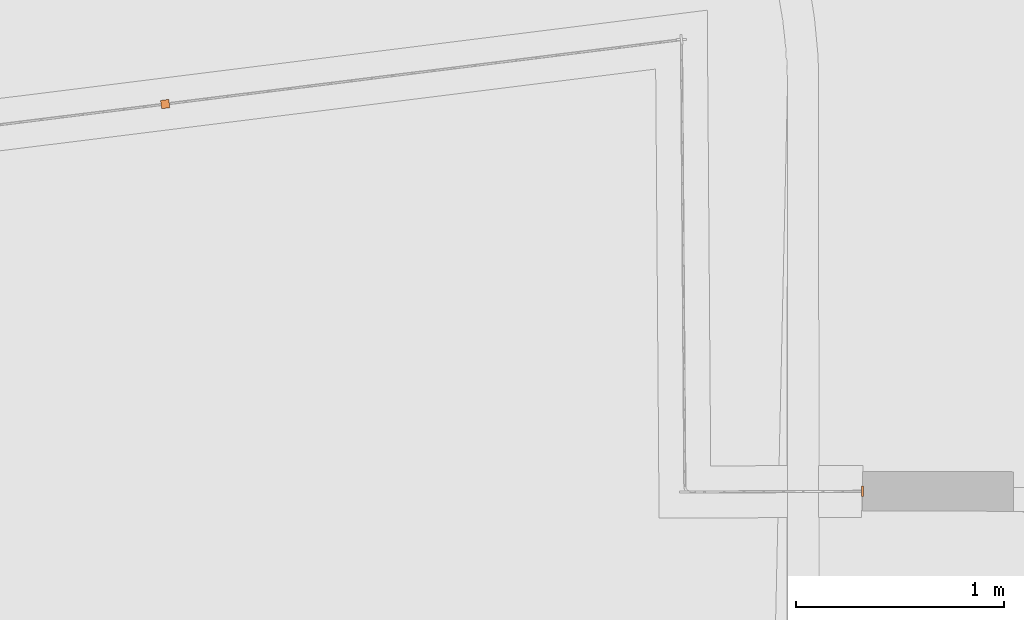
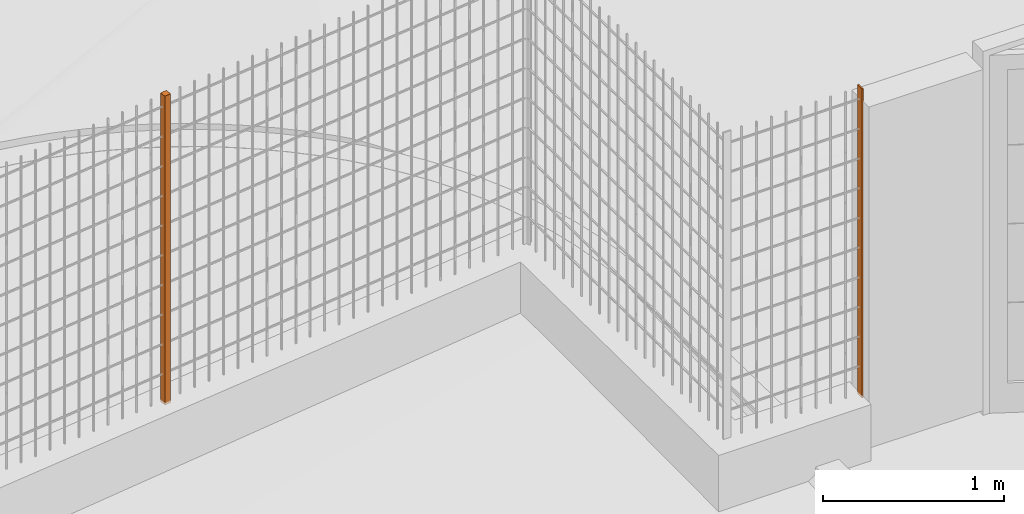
# One storey, part 46 of 1809: 2 proxies, 2 elements without a shape of their own.
"""IFC2X3 building model written with IfcOpenShell, lengths in millimetres."""

import ifcopenshell
import ifcopenshell.guid

model = None  # the IFC model being written
_history = None  # IfcOwnerHistory: only IFC2X3 demands one
_inside = {}  # id of a spatial element -> (the spatial element, [elements in it])
_under = {}  # id of a project, library or spatial element -> (it, [spatial elements below it])
_declared = {}  # id of a project -> (the project, [libraries it declares])
_typed = {}  # id of a type object -> (the type object, [elements of that type])
_made_of = {}  # id of a material, layer set ... -> (it, [elements and type objects made of it])


def new_model(schema):
    """Start an empty IFC model of exactly this schema.

    Asked for "IFC4X3", IfcOpenShell would pick the latest addendum, in which some entities
    have other attributes; the version numbers below select the first issue.
    IFC2X3 requires an IfcOwnerHistory on every rooted entity: one is made here for all.
    """
    global model, _history
    if schema == "IFC4X3":
        model = ifcopenshell.file(schema_version=(4, 3, 0, 0))
    else:
        model = ifcopenshell.file(schema=schema)
    _inside.clear()
    _under.clear()
    _declared.clear()
    _typed.clear()
    _made_of.clear()
    _history = None
    if model.schema == "IFC2X3":
        org = make("IfcOrganization", Name="unknown")
        user = make(
            "IfcPersonAndOrganization",
            ThePerson=make("IfcPerson", FamilyName="unknown"),
            TheOrganization=org,
        )
        app = make(
            "IfcApplication",
            ApplicationDeveloper=org,
            Version="unknown",
            ApplicationFullName="unknown",
            ApplicationIdentifier="unknown",
        )
        _history = make(
            "IfcOwnerHistory",
            OwningUser=user,
            OwningApplication=app,
            ChangeAction="ADDED",
            CreationDate=0,
        )
    return model


def make(cls, **values):
    """One entity of the class cls with the attributes given. An attribute that is None is left unset."""
    return model.create_entity(
        cls, **{name: value for name, value in values.items() if value is not None}
    )


def entity(cls, *values):
    """Any entity or typed value of the class cls, its attributes in the order of the schema. None: left unset."""
    e = model.create_entity(cls)
    for i, value in enumerate(values):
        if value is not None:
            e[i] = value
    return e


def rooted(cls, **values):
    """An entity with a GlobalId (a new one), such as an element, a storey or a relation."""
    return make(cls, GlobalId=ifcopenshell.guid.new(), OwnerHistory=_history, **values)


def si_unit(unit_type, name, prefix=None):
    """IfcSIUnit, for example si_unit("LENGTHUNIT", "METRE", prefix="MILLI")."""
    return make("IfcSIUnit", UnitType=unit_type, Prefix=prefix, Name=name)


def converted_unit(unit_type, name, factor, base, dimensions=None, offset=None):
    """IfcConversionBasedUnit, such as the inch: factor (a typed value) times the base unit."""
    return make(
        "IfcConversionBasedUnit"
        if offset is None
        else "IfcConversionBasedUnitWithOffset",
        ConversionOffset=offset,
        Dimensions=None
        if dimensions is None
        else entity("IfcDimensionalExponents", *dimensions),
        UnitType=unit_type,
        Name=name,
        ConversionFactor=make(
            "IfcMeasureWithUnit", ValueComponent=factor, UnitComponent=base
        ),
    )


def derived_unit(unit_type, elements):
    """IfcDerivedUnit: a product of units, each with its exponent."""
    return make(
        "IfcDerivedUnit",
        Elements=[
            make("IfcDerivedUnitElement", Unit=unit, Exponent=power)
            for unit, power in elements
        ],
        UnitType=unit_type,
    )


def money_unit(currency):
    """IfcMonetaryUnit."""
    return make("IfcMonetaryUnit", Currency=currency)


def assignment(units):
    """IfcUnitAssignment: the units of a project."""
    return None if units is None else make("IfcUnitAssignment", Units=units)


def point(xyz):
    """IfcCartesianPoint."""
    return None if xyz is None else make("IfcCartesianPoint", Coordinates=xyz)


def direction(xyz):
    """IfcDirection."""
    return None if xyz is None else make("IfcDirection", DirectionRatios=xyz)


def frame(location, z_axis=None, x_axis=None):
    """IfcAxis2Placement3D, a coordinate frame: its origin and axes. An axis left out is left unset."""
    return make(
        "IfcAxis2Placement3D",
        Location=point(location),
        Axis=direction(z_axis),
        RefDirection=direction(x_axis),
    )


def origin_with_axes():
    """The frame at (0, 0, 0) with the z axis (0, 0, 1) and the x axis (1, 0, 0) written out."""
    return frame((0.0, 0.0, 0.0), z_axis=(0.0, 0.0, 1.0), x_axis=(1.0, 0.0, 0.0))


def place(relative_to, where):
    """IfcLocalPlacement: puts the frame where relative to a parent placement (None: the world)."""
    return make(
        "IfcLocalPlacement", PlacementRelTo=relative_to, RelativePlacement=where
    )


def context(
    kind, dimensions, precision=None, world=None, true_north=None, identifier=None
):
    """IfcGeometricRepresentationContext, for example the 3D "Model" context."""
    return make(
        "IfcGeometricRepresentationContext",
        ContextIdentifier=identifier,
        ContextType=kind,
        CoordinateSpaceDimension=dimensions,
        Precision=precision,
        WorldCoordinateSystem=world,
        TrueNorth=true_north,
    )


def subcontext(parent, identifier, kind, view, scale=None):
    """IfcGeometricRepresentationSubContext, for example "Body" below "Model"."""
    return make(
        "IfcGeometricRepresentationSubContext",
        ContextIdentifier=identifier,
        ContextType=kind,
        ParentContext=parent,
        TargetScale=scale,
        TargetView=view,
    )


def project(units=None, contexts=None):
    """IfcProject with its units and contexts."""
    return rooted(
        "IfcProject",
        Name="project",
        RepresentationContexts=contexts,
        UnitsInContext=assignment(units),
    )


def spatial(cls, under=None, at=None, **own):
    """A site, building, storey or space (cls), placed at a placement, below another one or the project."""
    s = rooted(cls, ObjectPlacement=at, **own)
    if under is not None:
        _under.setdefault(under.id(), (under, []))[1].append(s)
    return s


def faces_of(points, faces, orient=None, outer=None):
    """IfcFace entities. A face is a list of loops; a loop is a list of indices into points, from 0.

    orient and outer hold one flag for each loop. By default every Orientation is true, the
    first loop of a face is its IfcFaceOuterBound and the others are IfcFaceBound.
    """
    made = []
    for i, loops in enumerate(faces):
        bounds = []
        for j, loop in enumerate(loops):
            is_outer = j == 0 if outer is None else outer[i][j]
            bounds.append(
                make(
                    "IfcFaceOuterBound" if is_outer else "IfcFaceBound",
                    Bound=make("IfcPolyLoop", Polygon=[points[k] for k in loop]),
                    Orientation=True if orient is None else orient[i][j],
                )
            )
        made.append(make("IfcFace", Bounds=bounds))
    return made


def faceted_brep(points, faces, orient=None, outer=None, voids=None):
    """IfcFacetedBrep: a solid bounded by flat faces; with voids (closed shells), ...WithVoids."""
    shared = [point(p) for p in points]
    hull = make("IfcClosedShell", CfsFaces=faces_of(shared, faces, orient, outer))
    if voids is None:
        return make("IfcFacetedBrep", Outer=hull)
    return make(
        "IfcFacetedBrepWithVoids",
        Outer=hull,
        Voids=[
            make(cls, CfsFaces=faces_of(shared, fs, o, b)) for cls, fs, o, b in voids
        ],
    )


def shape(context_of_items, identifier, shape_type, items):
    """IfcShapeRepresentation: the items that make up one representation, for example the "Body"."""
    return make(
        "IfcShapeRepresentation",
        ContextOfItems=context_of_items,
        RepresentationIdentifier=identifier,
        RepresentationType=shape_type,
        Items=items,
    )


def source(mapping_origin, context_of_items, identifier, shape_type, items):
    """IfcRepresentationMap: a shape defined once, which mapped items show again and again."""
    return make(
        "IfcRepresentationMap",
        MappingOrigin=mapping_origin,
        MappedRepresentation=shape(context_of_items, identifier, shape_type, items),
    )


def transform(
    local_origin,
    x_axis=None,
    y_axis=None,
    z_axis=None,
    scale=None,
    scale2=None,
    scale3=None,
    uniform=True,
):
    """IfcCartesianTransformationOperator3D, or its non-uniform kind. x_axis, y_axis, z_axis: its Axis1, 2, 3."""
    if uniform:
        return make(
            "IfcCartesianTransformationOperator3D",
            Axis1=direction(x_axis),
            Axis2=direction(y_axis),
            LocalOrigin=point(local_origin),
            Scale=scale,
            Axis3=direction(z_axis),
        )
    return make(
        "IfcCartesianTransformationOperator3DnonUniform",
        Axis1=direction(x_axis),
        Axis2=direction(y_axis),
        LocalOrigin=point(local_origin),
        Scale=scale,
        Axis3=direction(z_axis),
        Scale2=scale2,
        Scale3=scale3,
    )


def mapped(mapping_source, mapping_target):
    """IfcMappedItem: shows the shape of a source again, moved by a transform."""
    return make(
        "IfcMappedItem", MappingSource=mapping_source, MappingTarget=mapping_target
    )


def material(Name=None, Category=None):
    """IfcMaterial."""
    return make("IfcMaterial", Name=Name, Category=Category)


def made_of(thing, what):
    """Note that an element or type object is made of a material, layer set ...; save() writes the relation."""
    if what is not None:
        _made_of.setdefault(what.id(), (what, []))[1].append(thing)
    return thing


def type_object(cls, material=None, **own):
    """A type object (cls), such as IfcWallType, which elements share."""
    return made_of(rooted(cls, **own), material)


def element(
    cls,
    number,
    at=None,
    inside=None,
    cuts=None,
    type_object=None,
    material=None,
    context=None,
    identifier="Body",
    shape_type=None,
    held_by="IfcProductDefinitionShape",
    body=None,
    shapes=None,
    **own,
):
    """One element of the class cls, such as IfcWall. Its Tag is "e" and its number.

    at: its placement. inside: the storey or other place that contains it. cuts: it is an
    opening in that element (IfcRelVoidsElement). A single representation is given by context,
    identifier, shape_type and body (its items); several are given by shapes. held_by: the class
    of the entity that holds the representations. save() writes the other relations.
    """
    e = rooted(cls, Tag="e%d" % number, ObjectPlacement=at, **own)
    if body is not None:
        shapes = [shape(context, identifier, shape_type, body)]
    if shapes is not None:
        e.Representation = make(held_by, Representations=shapes)
    if inside is not None:
        _inside.setdefault(inside.id(), (inside, []))[1].append(e)
    if cuts is not None:
        rooted(
            "IfcRelVoidsElement", RelatingBuildingElement=cuts, RelatedOpeningElement=e
        )
    if type_object is not None:
        _typed.setdefault(type_object.id(), (type_object, []))[1].append(e)
    return made_of(e, material)


def aggregate(whole, parts):
    """IfcRelAggregates: a whole, such as a stair, and the parts it consists of."""
    return rooted("IfcRelAggregates", RelatingObject=whole, RelatedObjects=parts)


def save(model, path):
    """Write the relations noted so far, then the file.

    IfcRelAggregates (storeys below a building ...), IfcRelContainedInSpatialStructure (elements
    in a storey), IfcRelDefinesByType, IfcRelAssociatesMaterial and IfcRelDeclares: one each for
    every whole, place, type object, material and project.
    """
    for whole, parts in _under.values():
        aggregate(whole, parts)
    for where, things in _inside.values():
        rooted(
            "IfcRelContainedInSpatialStructure",
            RelatedElements=things,
            RelatingStructure=where,
        )
    for kind, things in _typed.values():
        rooted("IfcRelDefinesByType", RelatedObjects=things, RelatingType=kind)
    for what, things in _made_of.values():
        rooted("IfcRelAssociatesMaterial", RelatedObjects=things, RelatingMaterial=what)
    for by, libraries in _declared.values():
        rooted("IfcRelDeclares", RelatingContext=by, RelatedDefinitions=libraries)
    model.write(path)


model = new_model("IFC2X3")

# Units and contexts
model_context = context("Model", 3, precision=0.01, world=origin_with_axes(), true_north=direction((0.0, 1.0)))
body_context = subcontext(model_context, "Body", "Model", "MODEL_VIEW")
ifc_project = project(units=[si_unit("LENGTHUNIT", "METRE", prefix="MILLI"), si_unit("AREAUNIT", "SQUARE_METRE"), si_unit("VOLUMEUNIT", "CUBIC_METRE"), converted_unit("PLANEANGLEUNIT", "DEGREE", entity("IfcPlaneAngleMeasure", 0.0174532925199), si_unit("PLANEANGLEUNIT", "RADIAN"), dimensions=[0, 0, 0, 0, 0, 0, 0]), si_unit("SOLIDANGLEUNIT", "STERADIAN"), money_unit("EUR"), converted_unit("TIMEUNIT", "Year", entity("IfcTimeMeasure", 31556926.0), si_unit("TIMEUNIT", "SECOND"), dimensions=[0, 0, 1, 0, 0, 0, 0]), si_unit("MASSUNIT", "GRAM", prefix="KILO"), si_unit("THERMODYNAMICTEMPERATUREUNIT", "DEGREE_CELSIUS"), si_unit("LUMINOUSINTENSITYUNIT", "LUMEN"), si_unit("ENERGYUNIT", "JOULE", prefix="MEGA"), derived_unit("THERMALCONDUCTANCEUNIT", [(si_unit("POWERUNIT", "WATT"), 1), (si_unit("LENGTHUNIT", "METRE"), -1), (si_unit("THERMODYNAMICTEMPERATUREUNIT", "KELVIN"), -1)]), derived_unit("SPECIFICHEATCAPACITYUNIT", [(si_unit("ENERGYUNIT", "JOULE"), 1), (si_unit("MASSUNIT", "GRAM", prefix="KILO"), -1), (si_unit("THERMODYNAMICTEMPERATUREUNIT", "KELVIN"), -1)]), derived_unit("MASSDENSITYUNIT", [(si_unit("MASSUNIT", "GRAM", prefix="KILO"), 1), (si_unit("VOLUMEUNIT", "CUBIC_METRE"), -1)])], contexts=[model_context])

# Site, building, storey
site_placement = place(None, origin_with_axes())
site = spatial("IfcSite", under=ifc_project, at=site_placement, Name="Politse- ja Piirivalveameti ning Päästeameti ühishoone", CompositionType="ELEMENT")
building_placement = place(site_placement, origin_with_axes())
building = spatial("IfcBuilding", under=site, at=building_placement, Name="Politse- ja Piirivalveameti ning Päästeameti ühishoone", CompositionType="ELEMENT")
storey_placement = place(building_placement, origin_with_axes())
storey = spatial("IfcBuildingStorey", under=building, at=storey_placement, Name="Esimene korrus", CompositionType="ELEMENT", Elevation=0.0)

# Proxies
building_element_proxy_type_1 = type_object("IfcBuildingElementProxyType", Name="Railing Type", PredefinedType="NOTDEFINED")
proxy_1_placement = place(storey_placement, frame((50435.1929267, 70920.5645393, 296.762367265), z_axis=(0.0, 0.0, 1.0), x_axis=(1.0, 0.0, 0.0)))
proxy_1 = element("IfcBuildingElementProxy", 1, at=proxy_1_placement, inside=storey, type_object=building_element_proxy_type_1, Name="PIIRDEAED")
ifc_material_1 = material(Name="Teras - Konstruktsioon")
building_element_proxy_type_2 = type_object("IfcBuildingElementProxyType", Name="IfcBuildingElementProxy", PredefinedType="NOTDEFINED")
shared_shape_1 = source(origin_with_axes(), body_context, "Body", "Brep", [
    faceted_brep([(25.0, 5.0, 0.0), (-25.0, 5.0, 0.0), (-25.0, 4.99999999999, 2080.0), (25.0, 4.99999999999, 2080.0), (25.0, -5.0, 0.0), (-25.0, -5.0, 0.0), (-25.0, -5.00000000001, 2080.0), (25.0, -5.00000000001, 2080.0)], [[[0, 1, 2, 3]], [[0, 4, 5, 1]], [[1, 5, 6, 2]], [[3, 2, 6, 7]], [[4, 0, 3, 7]], [[5, 4, 7, 6]]]),
])
proxy_2_placement = place(proxy_1_placement, frame((1049.03252527, 4153.87114463, 0.0), z_axis=(0.0, 0.0, 1.0), x_axis=(1.0, 0.0, 0.0)))
proxy_2 = element("IfcBuildingElementProxy", 2, at=proxy_2_placement, type_object=building_element_proxy_type_2, material=ifc_material_1, Name="PIIRDE POST - 001", context=body_context, shape_type="MappedRepresentation", body=[
    mapped(shared_shape_1, transform((0.0, 0.0, 0.0), x_axis=(0.00436438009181, -0.999990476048, 0.0), y_axis=(0.999990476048, 0.00436438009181, 0.0), z_axis=(0.0, 0.0, 1.0))),
])
aggregate(proxy_1, [proxy_2])

proxy_3_placement = place(storey_placement, frame((44315.9245146, 76650.7857067, 296.762367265), z_axis=(0.0, 0.0, 1.0), x_axis=(0.122151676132, 0.992511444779, 0.0)))
proxy_3 = element("IfcBuildingElementProxy", 3, at=proxy_3_placement, inside=storey, type_object=building_element_proxy_type_1, Name="PIIRDEAED")
ifc_material_2 = material(Name="ET-03_Raud")
shared_shape_2 = source(origin_with_axes(), body_context, "Body", "Brep", [
    faceted_brep([(20.0, 20.0, 0.0), (-20.0, 20.0, 0.0), (-20.0, 20.0, 2080.0), (20.0, 20.0, 2080.0), (20.0, -20.0, 0.0), (-20.0, -20.0, 0.0), (-20.0, -20.0, 2080.0), (20.0, -20.0, 2080.0)], [[[0, 1, 2, 3]], [[0, 4, 5, 1]], [[1, 5, 6, 2]], [[3, 2, 6, 7]], [[4, 0, 3, 7]], [[5, 4, 7, 6]]]),
])
proxy_4_placement = place(proxy_3_placement, frame((748.705172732, -3754.90578887, 0.0), z_axis=(0.0, 0.0, 1.0), x_axis=(0.122151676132, -0.992511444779, 0.0)))
proxy_4 = element("IfcBuildingElementProxy", 4, at=proxy_4_placement, type_object=building_element_proxy_type_2, material=ifc_material_2, Name="SISEPOST - 001", context=body_context, shape_type="MappedRepresentation", body=[
    mapped(shared_shape_2, transform((0.0, 0.0, 0.0), x_axis=(-0.123895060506, 0.99229532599, 0.0), y_axis=(-0.99229532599, -0.123895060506, 0.0), z_axis=(0.0, 0.0, 1.0))),
])
aggregate(proxy_3, [proxy_4])

save(model, "model.ifc")
